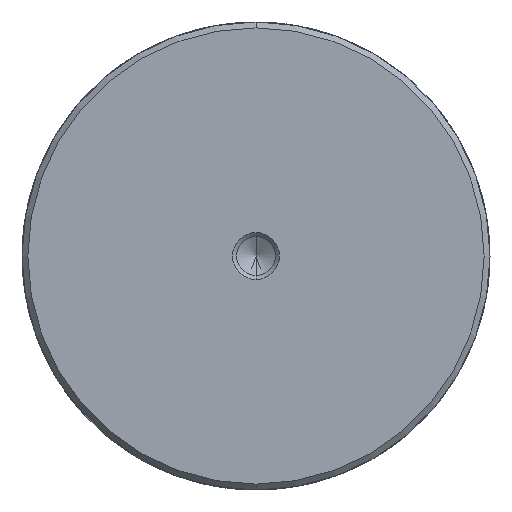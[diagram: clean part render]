
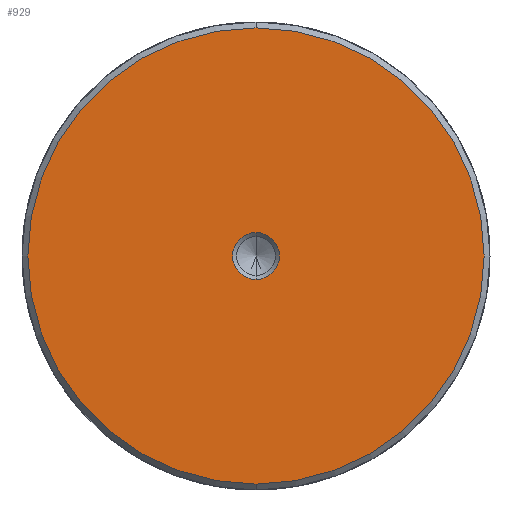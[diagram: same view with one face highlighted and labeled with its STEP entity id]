
A CAD part, left-side view. The second image highlights one B-rep face of the part: STEP entity #929.
In plain terms, the highlighted planar face has unit normal (-1, 0, 0).
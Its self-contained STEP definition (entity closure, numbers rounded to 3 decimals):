
#827=CARTESIAN_POINT('Vertex',(0.,0.,-39.)) ;
#830=CARTESIAN_POINT('Axis2P3D Location',(0.,0.,0.)) ;
#834=CARTESIAN_POINT('Vertex',(0.,39.,0.)) ;
#837=CARTESIAN_POINT('Axis2P3D Location',(0.,0.,0.)) ;
#841=CARTESIAN_POINT('Vertex',(0.,0.,39.)) ;
#863=CARTESIAN_POINT('Axis2P3D Location',(0.,0.,0.)) ;
#867=CARTESIAN_POINT('Vertex',(0.,-39.,0.)) ;
#870=CARTESIAN_POINT('Axis2P3D Location',(0.,0.,0.)) ;
#884=CARTESIAN_POINT('Axis2P3D Location',(0.,0.,0.)) ;
#895=CARTESIAN_POINT('Axis2P3D Location',(0.,0.,0.)) ;
#899=CARTESIAN_POINT('Vertex',(0.,4.,0.)) ;
#901=CARTESIAN_POINT('Vertex',(0.,0.,4.)) ;
#904=CARTESIAN_POINT('Axis2P3D Location',(0.,0.,0.)) ;
#908=CARTESIAN_POINT('Vertex',(0.,-4.,0.)) ;
#911=CARTESIAN_POINT('Axis2P3D Location',(0.,0.,0.)) ;
#915=CARTESIAN_POINT('Vertex',(0.,0.,-4.)) ;
#918=CARTESIAN_POINT('Axis2P3D Location',(0.,0.,0.)) ;
#831=DIRECTION('Axis2P3D Direction',(1.,0.,-0.)) ;
#838=DIRECTION('Axis2P3D Direction',(1.,0.,-0.)) ;
#864=DIRECTION('Axis2P3D Direction',(1.,0.,-0.)) ;
#871=DIRECTION('Axis2P3D Direction',(1.,0.,-0.)) ;
#885=DIRECTION('Axis2P3D Direction',(1.,0.,-0.)) ;
#886=DIRECTION('Axis2P3D XDirection',(-0.,0.,-1.)) ;
#896=DIRECTION('Axis2P3D Direction',(1.,0.,-0.)) ;
#905=DIRECTION('Axis2P3D Direction',(1.,0.,-0.)) ;
#912=DIRECTION('Axis2P3D Direction',(1.,0.,-0.)) ;
#919=DIRECTION('Axis2P3D Direction',(1.,0.,-0.)) ;
#832=AXIS2_PLACEMENT_3D('Circle Axis2P3D',#830,#831,$) ;
#839=AXIS2_PLACEMENT_3D('Circle Axis2P3D',#837,#838,$) ;
#865=AXIS2_PLACEMENT_3D('Circle Axis2P3D',#863,#864,$) ;
#872=AXIS2_PLACEMENT_3D('Circle Axis2P3D',#870,#871,$) ;
#887=AXIS2_PLACEMENT_3D('Plane Axis2P3D',#884,#885,#886) ;
#897=AXIS2_PLACEMENT_3D('Circle Axis2P3D',#895,#896,$) ;
#906=AXIS2_PLACEMENT_3D('Circle Axis2P3D',#904,#905,$) ;
#913=AXIS2_PLACEMENT_3D('Circle Axis2P3D',#911,#912,$) ;
#920=AXIS2_PLACEMENT_3D('Circle Axis2P3D',#918,#919,$) ;
#890=ORIENTED_EDGE('',*,*,#836,.F.) ;
#891=ORIENTED_EDGE('',*,*,#874,.F.) ;
#892=ORIENTED_EDGE('',*,*,#869,.F.) ;
#893=ORIENTED_EDGE('',*,*,#843,.F.) ;
#924=ORIENTED_EDGE('',*,*,#903,.T.) ;
#925=ORIENTED_EDGE('',*,*,#910,.T.) ;
#926=ORIENTED_EDGE('',*,*,#917,.T.) ;
#927=ORIENTED_EDGE('',*,*,#922,.T.) ;
#928=FACE_BOUND('',#923,.T.) ;
#929=ADVANCED_FACE('720-80x700',(#894,#928),#888,.F.) ;
#833=CIRCLE('generated circle',#832,39.) ;
#840=CIRCLE('generated circle',#839,39.) ;
#866=CIRCLE('generated circle',#865,39.) ;
#873=CIRCLE('generated circle',#872,39.) ;
#898=CIRCLE('generated circle',#897,4.) ;
#907=CIRCLE('generated circle',#906,4.) ;
#914=CIRCLE('generated circle',#913,4.) ;
#921=CIRCLE('generated circle',#920,4.) ;
#836=EDGE_CURVE('',#828,#835,#833,.T.) ;
#843=EDGE_CURVE('',#835,#842,#840,.T.) ;
#869=EDGE_CURVE('',#842,#868,#866,.T.) ;
#874=EDGE_CURVE('',#868,#828,#873,.T.) ;
#903=EDGE_CURVE('',#900,#902,#898,.T.) ;
#910=EDGE_CURVE('',#902,#909,#907,.T.) ;
#917=EDGE_CURVE('',#909,#916,#914,.T.) ;
#922=EDGE_CURVE('',#916,#900,#921,.T.) ;
#889=EDGE_LOOP('',(#890,#891,#892,#893)) ;
#923=EDGE_LOOP('',(#924,#925,#926,#927)) ;
#894=FACE_OUTER_BOUND('',#889,.T.) ;
#888=PLANE('Plane',#887) ;
#828=VERTEX_POINT('',#827) ;
#835=VERTEX_POINT('',#834) ;
#842=VERTEX_POINT('',#841) ;
#868=VERTEX_POINT('',#867) ;
#900=VERTEX_POINT('',#899) ;
#902=VERTEX_POINT('',#901) ;
#909=VERTEX_POINT('',#908) ;
#916=VERTEX_POINT('',#915) ;
